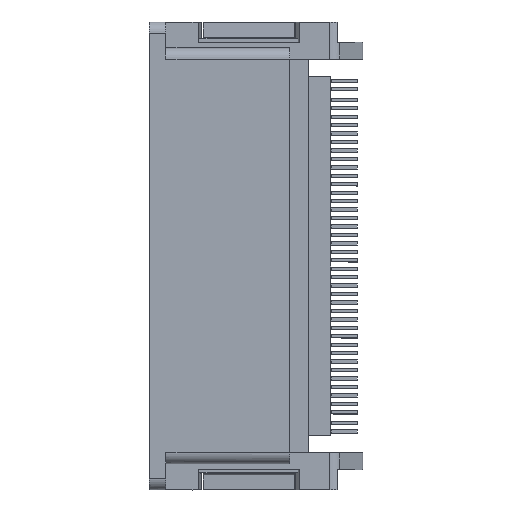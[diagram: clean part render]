
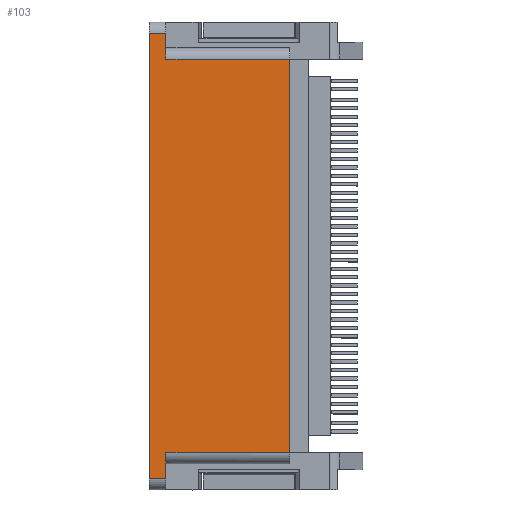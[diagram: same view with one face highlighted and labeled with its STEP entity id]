
A CAD part, top view. The second image highlights one B-rep face of the part: STEP entity #103.
In plain terms, the highlighted planar face has unit normal (0, 0, 1).
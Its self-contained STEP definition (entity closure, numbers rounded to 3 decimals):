
#35=AXIS2_PLACEMENT_3D('Plane Axis2P3D',#32,#33,#34) ;
#32=CARTESIAN_POINT('Axis2P3D Location',(0.,18.475,9.)) ;
#37=CARTESIAN_POINT('Line Origine',(-10.25,19.775,9.)) ;
#41=CARTESIAN_POINT('Vertex',(-11.,19.775,9.)) ;
#43=CARTESIAN_POINT('Vertex',(-9.5,19.775,9.)) ;
#46=CARTESIAN_POINT('Line Origine',(-11.,0.,9.)) ;
#50=CARTESIAN_POINT('Vertex',(-11.,-19.775,9.)) ;
#53=CARTESIAN_POINT('Line Origine',(-10.25,-19.775,9.)) ;
#57=CARTESIAN_POINT('Vertex',(-9.5,-19.775,9.)) ;
#60=CARTESIAN_POINT('Line Origine',(-9.5,-18.625,9.)) ;
#64=CARTESIAN_POINT('Vertex',(-9.5,-17.475,9.)) ;
#67=CARTESIAN_POINT('Line Origine',(-4.,-17.475,9.)) ;
#71=CARTESIAN_POINT('Vertex',(1.5,-17.475,9.)) ;
#74=CARTESIAN_POINT('Line Origine',(1.5,0.,9.)) ;
#78=CARTESIAN_POINT('Vertex',(1.5,17.475,9.)) ;
#81=CARTESIAN_POINT('Line Origine',(-4.,17.475,9.)) ;
#85=CARTESIAN_POINT('Vertex',(-9.5,17.475,9.)) ;
#88=CARTESIAN_POINT('Line Origine',(-9.5,18.625,9.)) ;
#33=DIRECTION('Axis2P3D Direction',(-0.,0.,-1.)) ;
#34=DIRECTION('Axis2P3D XDirection',(0.,-1.,0.)) ;
#38=DIRECTION('Vector Direction',(1.,0.,0.)) ;
#47=DIRECTION('Vector Direction',(0.,-1.,0.)) ;
#54=DIRECTION('Vector Direction',(1.,0.,0.)) ;
#61=DIRECTION('Vector Direction',(0.,-1.,0.)) ;
#68=DIRECTION('Vector Direction',(-1.,0.,0.)) ;
#75=DIRECTION('Vector Direction',(0.,-1.,0.)) ;
#82=DIRECTION('Vector Direction',(-1.,0.,0.)) ;
#89=DIRECTION('Vector Direction',(0.,-1.,0.)) ;
#39=VECTOR('Line Direction',#38,1.) ;
#48=VECTOR('Line Direction',#47,1.) ;
#55=VECTOR('Line Direction',#54,1.) ;
#62=VECTOR('Line Direction',#61,1.) ;
#69=VECTOR('Line Direction',#68,1.) ;
#76=VECTOR('Line Direction',#75,1.) ;
#83=VECTOR('Line Direction',#82,1.) ;
#90=VECTOR('Line Direction',#89,1.) ;
#94=ORIENTED_EDGE('',*,*,#45,.F.) ;
#95=ORIENTED_EDGE('',*,*,#52,.F.) ;
#96=ORIENTED_EDGE('',*,*,#59,.T.) ;
#97=ORIENTED_EDGE('',*,*,#66,.F.) ;
#98=ORIENTED_EDGE('',*,*,#73,.F.) ;
#99=ORIENTED_EDGE('',*,*,#80,.F.) ;
#100=ORIENTED_EDGE('',*,*,#87,.T.) ;
#101=ORIENTED_EDGE('',*,*,#92,.F.) ;
#103=ADVANCED_FACE('6099-0001',(#102),#36,.F.) ;
#45=EDGE_CURVE('',#42,#44,#40,.T.) ;
#52=EDGE_CURVE('',#51,#42,#49,.F.) ;
#59=EDGE_CURVE('',#51,#58,#56,.T.) ;
#66=EDGE_CURVE('',#65,#58,#63,.T.) ;
#73=EDGE_CURVE('',#72,#65,#70,.T.) ;
#80=EDGE_CURVE('',#79,#72,#77,.T.) ;
#87=EDGE_CURVE('',#79,#86,#84,.T.) ;
#92=EDGE_CURVE('',#44,#86,#91,.T.) ;
#93=EDGE_LOOP('',(#94,#95,#96,#97,#98,#99,#100,#101)) ;
#102=FACE_OUTER_BOUND('',#93,.T.) ;
#40=LINE('Line',#37,#39) ;
#49=LINE('Line',#46,#48) ;
#56=LINE('Line',#53,#55) ;
#63=LINE('Line',#60,#62) ;
#70=LINE('Line',#67,#69) ;
#77=LINE('Line',#74,#76) ;
#84=LINE('Line',#81,#83) ;
#91=LINE('Line',#88,#90) ;
#36=PLANE('',#35) ;
#42=VERTEX_POINT('',#41) ;
#44=VERTEX_POINT('',#43) ;
#51=VERTEX_POINT('',#50) ;
#58=VERTEX_POINT('',#57) ;
#65=VERTEX_POINT('',#64) ;
#72=VERTEX_POINT('',#71) ;
#79=VERTEX_POINT('',#78) ;
#86=VERTEX_POINT('',#85) ;
